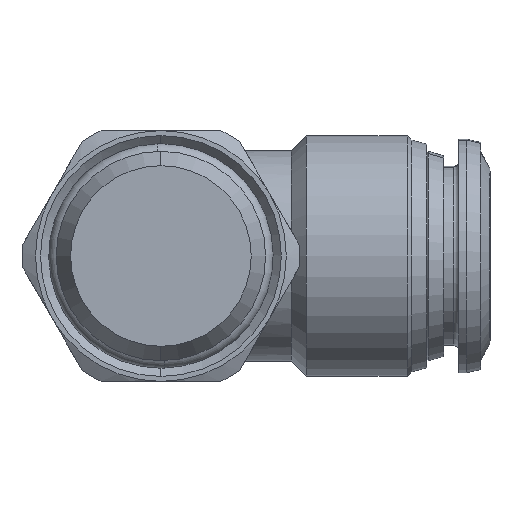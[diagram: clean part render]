
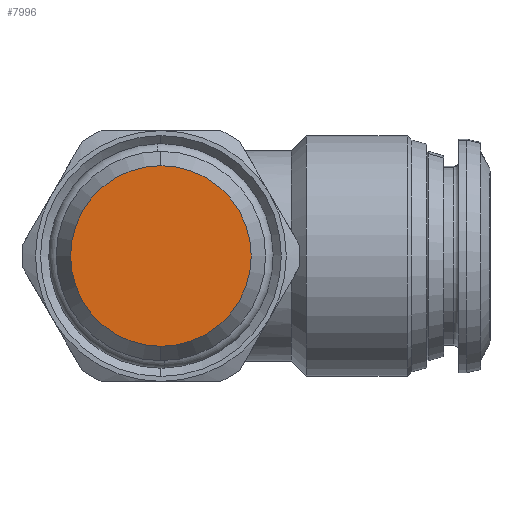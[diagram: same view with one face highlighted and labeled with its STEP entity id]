
A CAD part, front view. The second image highlights one B-rep face of the part: STEP entity #7996.
In plain terms, the highlighted planar face has unit normal (0, -1, 0).
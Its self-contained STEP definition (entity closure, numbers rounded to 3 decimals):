
#699 = DIRECTION ( 'NONE',  ( 0., 0., 1. ) ) ;
#1569 = CARTESIAN_POINT ( 'NONE',  ( 0., -41.3, -9. ) ) ;
#1883 = FACE_OUTER_BOUND ( 'NONE', #4046, .T. ) ;
#2391 = VERTEX_POINT ( 'NONE', #6504 ) ;
#2564 = PLANE ( 'NONE',  #3634 ) ;
#2749 = VERTEX_POINT ( 'NONE', #1569 ) ;
#2837 = DIRECTION ( 'NONE',  ( 0., 1., 0. ) ) ;
#3218 = DIRECTION ( 'NONE',  ( 0., 1., 0. ) ) ;
#3634 = AXIS2_PLACEMENT_3D ( 'NONE', #3821, #3218, #6843 ) ;
#3821 = CARTESIAN_POINT ( 'NONE',  ( 0., -41.3, 0. ) ) ;
#4046 = EDGE_LOOP ( 'NONE', ( #7217, #5844 ) ) ;
#4140 = CIRCLE ( 'NONE', #6621, 9. ) ;
#4313 = CARTESIAN_POINT ( 'NONE',  ( 0., -41.3, 0. ) ) ;
#4818 = DIRECTION ( 'NONE',  ( 0., 0., 1. ) ) ;
#4918 = CIRCLE ( 'NONE', #5428, 9. ) ;
#5268 = EDGE_CURVE ( 'NONE', #2391, #2749, #4918, .T. ) ;
#5428 = AXIS2_PLACEMENT_3D ( 'NONE', #7194, #2837, #4818 ) ;
#5844 = ORIENTED_EDGE ( 'NONE', *, *, #7964, .F. ) ;
#6318 = DIRECTION ( 'NONE',  ( 0., 1., 0. ) ) ;
#6504 = CARTESIAN_POINT ( 'NONE',  ( 0., -41.3, 9. ) ) ;
#6621 = AXIS2_PLACEMENT_3D ( 'NONE', #4313, #6318, #699 ) ;
#6843 = DIRECTION ( 'NONE',  ( 0., 0., 1. ) ) ;
#7194 = CARTESIAN_POINT ( 'NONE',  ( 0., -41.3, 0. ) ) ;
#7217 = ORIENTED_EDGE ( 'NONE', *, *, #5268, .F. ) ;
#7964 = EDGE_CURVE ( 'NONE', #2749, #2391, #4140, .T. ) ;
#7996 = ADVANCED_FACE ( 'NONE', ( #1883 ), #2564, .F. ) ;
